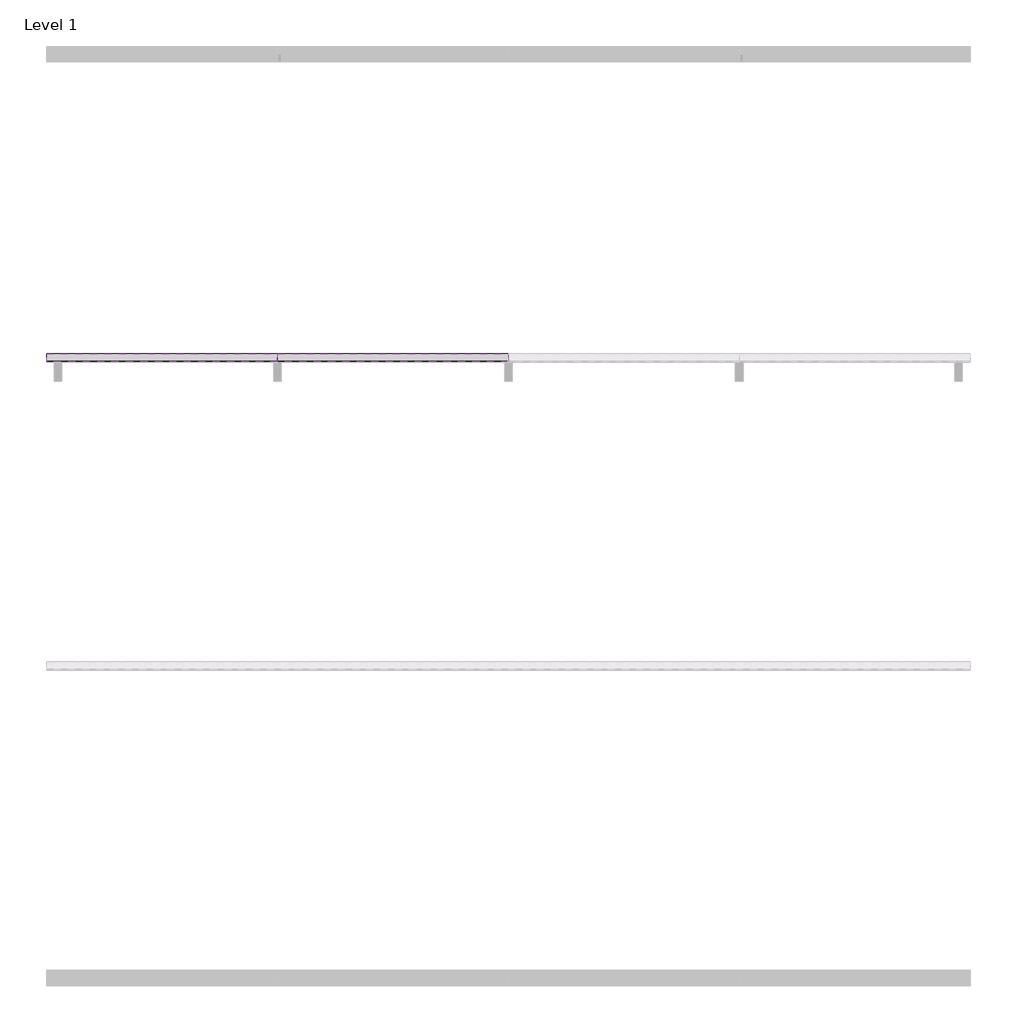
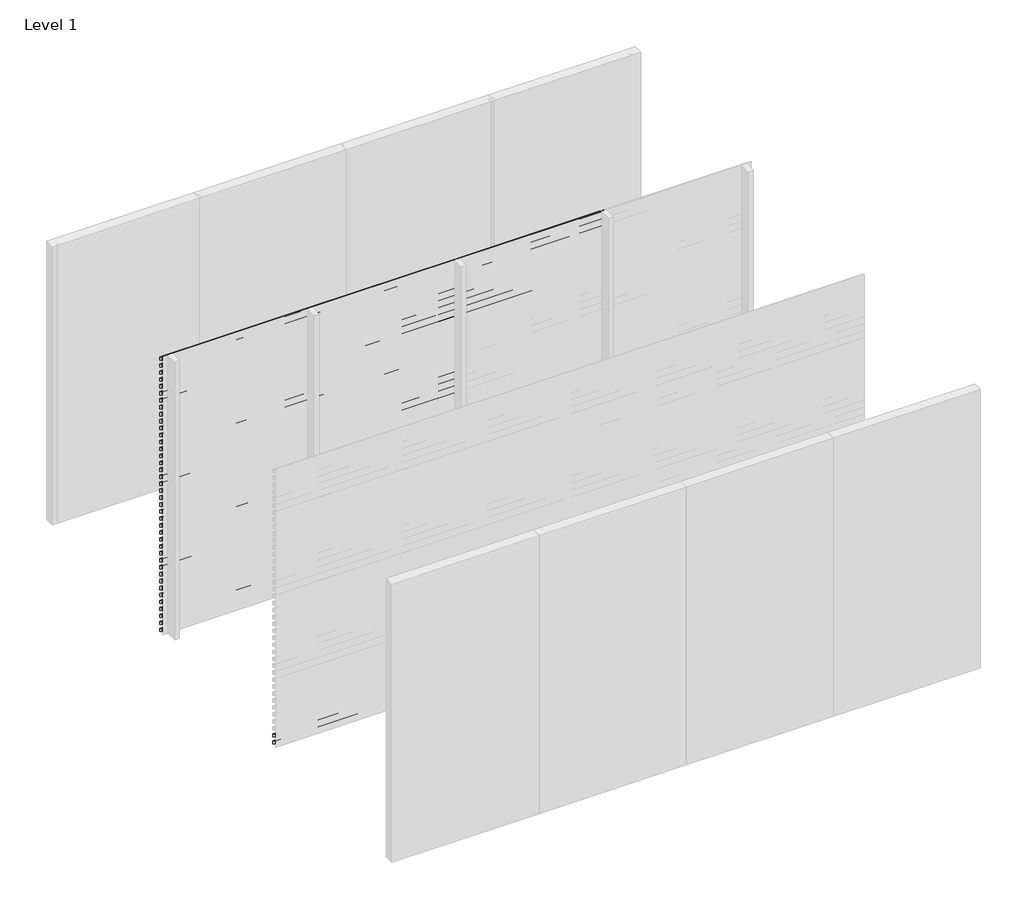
# One storey, part 2 of 9: 93 proxies.
"""IFC4 building model written with IfcOpenShell, lengths in millimetres."""

from ifc_helpers import new_model, si_unit, frame, origin, place, context, project, spatial, polyline, outline, extrude, element, save

model = new_model("IFC4")

# Units and contexts
model_context = context("Model", 3, world=origin())
ifc_project = project(units=[si_unit("LENGTHUNIT", "METRE", prefix="MILLI")], contexts=[model_context])

# Site, building, storey
site = spatial("IfcSite", under=ifc_project)
building = spatial("IfcBuilding", under=site)
storey = spatial("IfcBuildingStorey", under=building, Name="Level 1", Elevation=0.0)

# Proxies
placement = place(None, origin())
element("IfcBuildingElementProxy", 1, Name="Wall Sweeps", at=placement, inside=storey, context=model_context, shape_type="SweptSolid", body=[
    extrude(outline(polyline([(-17995.0, 3000.0), (-17995.0, 2991.2901632), (-17946.0, 2963.0), (-17946.0, 2928.0), (-17997.0, 2957.4448637), (-17997.0, 3000.0), (-17995.0, 3000.0)])), frame((3000.0, 0.0, 0.0), z_axis=(1.0, 0.0, 0.0), x_axis=(0.0, 1.0, 0.0)), (0.0, 0.0, 1.0), 1499.9999998),
])
element("IfcBuildingElementProxy", 2, Name="Wall Sweeps", at=placement, inside=storey, context=model_context, shape_type="SweptSolid", body=[
    extrude(outline(polyline([(-17995.0, 2925.0), (-17995.0, 2916.2901632), (-17946.0, 2888.0), (-17946.0, 2853.0), (-17997.0, 2882.4448637), (-17997.0, 2925.0), (-17995.0, 2925.0)])), frame((3000.0, 0.0, 0.0), z_axis=(1.0, 0.0, 0.0), x_axis=(0.0, 1.0, 0.0)), (0.0, 0.0, 1.0), 1499.9999998),
])
element("IfcBuildingElementProxy", 3, Name="Wall Sweeps", at=placement, inside=storey, context=model_context, shape_type="SweptSolid", body=[
    extrude(outline(polyline([(-17995.0, 2850.0), (-17995.0, 2841.2901632), (-17946.0, 2813.0), (-17946.0, 2778.0), (-17997.0, 2807.4448637), (-17997.0, 2850.0), (-17995.0, 2850.0)])), frame((3000.0, 0.0, 0.0), z_axis=(1.0, 0.0, 0.0), x_axis=(0.0, 1.0, 0.0)), (0.0, 0.0, 1.0), 1499.9999998),
])
element("IfcBuildingElementProxy", 4, Name="Wall Sweeps", at=placement, inside=storey, context=model_context, shape_type="SweptSolid", body=[
    extrude(outline(polyline([(-17995.0, 2775.0), (-17995.0, 2766.2901632), (-17946.0, 2738.0), (-17946.0, 2703.0), (-17997.0, 2732.4448637), (-17997.0, 2775.0), (-17995.0, 2775.0)])), frame((3000.0, 0.0, 0.0), z_axis=(1.0, 0.0, 0.0), x_axis=(0.0, 1.0, 0.0)), (0.0, 0.0, 1.0), 1499.9999998),
])
element("IfcBuildingElementProxy", 5, Name="Wall Sweeps", at=placement, inside=storey, context=model_context, shape_type="SweptSolid", body=[
    extrude(outline(polyline([(-17995.0, 2700.0), (-17995.0, 2691.2901632), (-17946.0, 2663.0), (-17946.0, 2628.0), (-17997.0, 2657.4448637), (-17997.0, 2700.0), (-17995.0, 2700.0)])), frame((3000.0, 0.0, 0.0), z_axis=(1.0, 0.0, 0.0), x_axis=(0.0, 1.0, 0.0)), (0.0, 0.0, 1.0), 1499.9999998),
])
element("IfcBuildingElementProxy", 6, Name="Wall Sweeps", at=placement, inside=storey, context=model_context, shape_type="SweptSolid", body=[
    extrude(outline(polyline([(-17995.0, 2625.0), (-17995.0, 2616.2901632), (-17946.0, 2588.0), (-17946.0, 2553.0), (-17997.0, 2582.4448637), (-17997.0, 2625.0), (-17995.0, 2625.0)])), frame((3000.0, 0.0, 0.0), z_axis=(1.0, 0.0, 0.0), x_axis=(0.0, 1.0, 0.0)), (0.0, 0.0, 1.0), 1499.9999998),
])
element("IfcBuildingElementProxy", 7, Name="Wall Sweeps", at=placement, inside=storey, context=model_context, shape_type="SweptSolid", body=[
    extrude(outline(polyline([(-17995.0, 2550.0), (-17995.0, 2541.2901632), (-17946.0, 2513.0), (-17946.0, 2478.0), (-17997.0, 2507.4448637), (-17997.0, 2550.0), (-17995.0, 2550.0)])), frame((3000.0, 0.0, 0.0), z_axis=(1.0, 0.0, 0.0), x_axis=(0.0, 1.0, 0.0)), (0.0, 0.0, 1.0), 1499.9999998),
])
element("IfcBuildingElementProxy", 8, Name="Wall Sweeps", at=placement, inside=storey, context=model_context, shape_type="SweptSolid", body=[
    extrude(outline(polyline([(-17995.0, 2475.0), (-17995.0, 2466.2901632), (-17946.0, 2438.0), (-17946.0, 2403.0), (-17997.0, 2432.4448637), (-17997.0, 2475.0), (-17995.0, 2475.0)])), frame((3000.0, 0.0, 0.0), z_axis=(1.0, 0.0, 0.0), x_axis=(0.0, 1.0, 0.0)), (0.0, 0.0, 1.0), 1499.9999998),
])
element("IfcBuildingElementProxy", 9, Name="Wall Sweeps", at=placement, inside=storey, context=model_context, shape_type="SweptSolid", body=[
    extrude(outline(polyline([(-17995.0, 2400.0), (-17995.0, 2391.2901632), (-17946.0, 2363.0), (-17946.0, 2328.0), (-17997.0, 2357.4448637), (-17997.0, 2400.0), (-17995.0, 2400.0)])), frame((3000.0, 0.0, 0.0), z_axis=(1.0, 0.0, 0.0), x_axis=(0.0, 1.0, 0.0)), (0.0, 0.0, 1.0), 1499.9999998),
])
element("IfcBuildingElementProxy", 10, Name="Wall Sweeps", at=placement, inside=storey, context=model_context, shape_type="SweptSolid", body=[
    extrude(outline(polyline([(-17995.0, 2325.0), (-17995.0, 2316.2901632), (-17946.0, 2288.0), (-17946.0, 2253.0), (-17997.0, 2282.4448637), (-17997.0, 2325.0), (-17995.0, 2325.0)])), frame((3000.0, 0.0, 0.0), z_axis=(1.0, 0.0, 0.0), x_axis=(0.0, 1.0, 0.0)), (0.0, 0.0, 1.0), 1499.9999998),
])
element("IfcBuildingElementProxy", 11, Name="Wall Sweeps", at=placement, inside=storey, context=model_context, shape_type="SweptSolid", body=[
    extrude(outline(polyline([(-17995.0, 2250.0), (-17995.0, 2241.2901632), (-17946.0, 2213.0), (-17946.0, 2178.0), (-17997.0, 2207.4448637), (-17997.0, 2250.0), (-17995.0, 2250.0)])), frame((3000.0, 0.0, 0.0), z_axis=(1.0, 0.0, 0.0), x_axis=(0.0, 1.0, 0.0)), (0.0, 0.0, 1.0), 1499.9999998),
])
element("IfcBuildingElementProxy", 12, Name="Wall Sweeps", at=placement, inside=storey, context=model_context, shape_type="SweptSolid", body=[
    extrude(outline(polyline([(-17995.0, 3000.0), (-17995.0, 2991.2901632), (-17946.0, 2963.0), (-17946.0, 2928.0), (-17997.0, 2957.4448637), (-17997.0, 3000.0), (-17995.0, 3000.0)])), frame((1500.0000002, 0.0, 0.0), z_axis=(1.0, 0.0, 0.0), x_axis=(0.0, 1.0, 0.0)), (0.0, 0.0, 1.0), 1499.9999998),
])
element("IfcBuildingElementProxy", 13, Name="Wall Sweeps", at=placement, inside=storey, context=model_context, shape_type="SweptSolid", body=[
    extrude(outline(polyline([(-17995.0, 2925.0), (-17995.0, 2916.2901632), (-17946.0, 2888.0), (-17946.0, 2853.0), (-17997.0, 2882.4448637), (-17997.0, 2925.0), (-17995.0, 2925.0)])), frame((1500.0000002, 0.0, 0.0), z_axis=(1.0, 0.0, 0.0), x_axis=(0.0, 1.0, 0.0)), (0.0, 0.0, 1.0), 1499.9999998),
])
element("IfcBuildingElementProxy", 14, Name="Wall Sweeps", at=placement, inside=storey, context=model_context, shape_type="SweptSolid", body=[
    extrude(outline(polyline([(-17995.0, 2850.0), (-17995.0, 2841.2901632), (-17946.0, 2813.0), (-17946.0, 2778.0), (-17997.0, 2807.4448637), (-17997.0, 2850.0), (-17995.0, 2850.0)])), frame((1500.0000002, 0.0, 0.0), z_axis=(1.0, 0.0, 0.0), x_axis=(0.0, 1.0, 0.0)), (0.0, 0.0, 1.0), 1499.9999998),
])
element("IfcBuildingElementProxy", 15, Name="Wall Sweeps", at=placement, inside=storey, context=model_context, shape_type="SweptSolid", body=[
    extrude(outline(polyline([(-17995.0, 2775.0), (-17995.0, 2766.2901632), (-17946.0, 2738.0), (-17946.0, 2703.0), (-17997.0, 2732.4448637), (-17997.0, 2775.0), (-17995.0, 2775.0)])), frame((1500.0000002, 0.0, 0.0), z_axis=(1.0, 0.0, 0.0), x_axis=(0.0, 1.0, 0.0)), (0.0, 0.0, 1.0), 1499.9999998),
])
element("IfcBuildingElementProxy", 16, Name="Wall Sweeps", at=placement, inside=storey, context=model_context, shape_type="SweptSolid", body=[
    extrude(outline(polyline([(-17995.0, 2700.0), (-17995.0, 2691.2901632), (-17946.0, 2663.0), (-17946.0, 2628.0), (-17997.0, 2657.4448637), (-17997.0, 2700.0), (-17995.0, 2700.0)])), frame((1500.0000002, 0.0, 0.0), z_axis=(1.0, 0.0, 0.0), x_axis=(0.0, 1.0, 0.0)), (0.0, 0.0, 1.0), 1499.9999998),
])
element("IfcBuildingElementProxy", 17, Name="Wall Sweeps", at=placement, inside=storey, context=model_context, shape_type="SweptSolid", body=[
    extrude(outline(polyline([(-17995.0, 2625.0), (-17995.0, 2616.2901632), (-17946.0, 2588.0), (-17946.0, 2553.0), (-17997.0, 2582.4448637), (-17997.0, 2625.0), (-17995.0, 2625.0)])), frame((1500.0000002, 0.0, 0.0), z_axis=(1.0, 0.0, 0.0), x_axis=(0.0, 1.0, 0.0)), (0.0, 0.0, 1.0), 1499.9999998),
])
element("IfcBuildingElementProxy", 18, Name="Wall Sweeps", at=placement, inside=storey, context=model_context, shape_type="SweptSolid", body=[
    extrude(outline(polyline([(-17995.0, 2550.0), (-17995.0, 2541.2901632), (-17946.0, 2513.0), (-17946.0, 2478.0), (-17997.0, 2507.4448637), (-17997.0, 2550.0), (-17995.0, 2550.0)])), frame((1500.0000002, 0.0, 0.0), z_axis=(1.0, 0.0, 0.0), x_axis=(0.0, 1.0, 0.0)), (0.0, 0.0, 1.0), 1499.9999998),
])
element("IfcBuildingElementProxy", 19, Name="Wall Sweeps", at=placement, inside=storey, context=model_context, shape_type="SweptSolid", body=[
    extrude(outline(polyline([(-17995.0, 2475.0), (-17995.0, 2466.2901632), (-17946.0, 2438.0), (-17946.0, 2403.0), (-17997.0, 2432.4448637), (-17997.0, 2475.0), (-17995.0, 2475.0)])), frame((1500.0000002, 0.0, 0.0), z_axis=(1.0, 0.0, 0.0), x_axis=(0.0, 1.0, 0.0)), (0.0, 0.0, 1.0), 1499.9999998),
])
element("IfcBuildingElementProxy", 20, Name="Wall Sweeps", at=placement, inside=storey, context=model_context, shape_type="SweptSolid", body=[
    extrude(outline(polyline([(-17995.0, 2400.0), (-17995.0, 2391.2901632), (-17946.0, 2363.0), (-17946.0, 2328.0), (-17997.0, 2357.4448637), (-17997.0, 2400.0), (-17995.0, 2400.0)])), frame((1500.0000002, 0.0, 0.0), z_axis=(1.0, 0.0, 0.0), x_axis=(0.0, 1.0, 0.0)), (0.0, 0.0, 1.0), 1499.9999998),
])
element("IfcBuildingElementProxy", 21, Name="Wall Sweeps", at=placement, inside=storey, context=model_context, shape_type="SweptSolid", body=[
    extrude(outline(polyline([(-17995.0, 2325.0), (-17995.0, 2316.2901632), (-17946.0, 2288.0), (-17946.0, 2253.0), (-17997.0, 2282.4448637), (-17997.0, 2325.0), (-17995.0, 2325.0)])), frame((1500.0000002, 0.0, 0.0), z_axis=(1.0, 0.0, 0.0), x_axis=(0.0, 1.0, 0.0)), (0.0, 0.0, 1.0), 1499.9999998),
])
element("IfcBuildingElementProxy", 22, Name="Wall Sweeps", at=placement, inside=storey, context=model_context, shape_type="SweptSolid", body=[
    extrude(outline(polyline([(-17995.0, 2250.0), (-17995.0, 2241.2901632), (-17946.0, 2213.0), (-17946.0, 2178.0), (-17997.0, 2207.4448637), (-17997.0, 2250.0), (-17995.0, 2250.0)])), frame((1500.0000002, 0.0, 0.0), z_axis=(1.0, 0.0, 0.0), x_axis=(0.0, 1.0, 0.0)), (0.0, 0.0, 1.0), 1499.9999998),
])
element("IfcBuildingElementProxy", 23, Name="Wall Sweeps", at=placement, inside=storey, context=model_context, shape_type="SweptSolid", body=[
    extrude(outline(polyline([(-17995.0, 2175.0), (-17995.0, 2166.2901632), (-17946.0, 2138.0), (-17946.0, 2103.0), (-17997.0, 2132.4448637), (-17997.0, 2175.0), (-17995.0, 2175.0)])), frame((1500.0000002, 0.0, 0.0), z_axis=(1.0, 0.0, 0.0), x_axis=(0.0, 1.0, 0.0)), (0.0, 0.0, 1.0), 1499.9999998),
])
element("IfcBuildingElementProxy", 24, Name="Wall Sweeps", at=placement, inside=storey, context=model_context, shape_type="SweptSolid", body=[
    extrude(outline(polyline([(-17995.0, 2100.0), (-17995.0, 2091.2901632), (-17946.0, 2063.0), (-17946.0, 2028.0), (-17997.0, 2057.4448637), (-17997.0, 2100.0), (-17995.0, 2100.0)])), frame((1500.0000002, 0.0, 0.0), z_axis=(1.0, 0.0, 0.0), x_axis=(0.0, 1.0, 0.0)), (0.0, 0.0, 1.0), 1499.9999998),
])
element("IfcBuildingElementProxy", 25, Name="Wall Sweeps", at=placement, inside=storey, context=model_context, shape_type="SweptSolid", body=[
    extrude(outline(polyline([(-17995.0, 2025.0), (-17995.0, 2016.2901632), (-17946.0, 1988.0), (-17946.0, 1953.0), (-17997.0, 1982.4448637), (-17997.0, 2025.0), (-17995.0, 2025.0)])), frame((1500.0000002, 0.0, 0.0), z_axis=(1.0, 0.0, 0.0), x_axis=(0.0, 1.0, 0.0)), (0.0, 0.0, 1.0), 1499.9999998),
])
element("IfcBuildingElementProxy", 26, Name="Wall Sweeps", at=placement, inside=storey, context=model_context, shape_type="SweptSolid", body=[
    extrude(outline(polyline([(-17995.0, 1950.0), (-17995.0, 1941.2901632), (-17946.0, 1913.0), (-17946.0, 1878.0), (-17997.0, 1907.4448637), (-17997.0, 1950.0), (-17995.0, 1950.0)])), frame((1500.0000002, 0.0, 0.0), z_axis=(1.0, 0.0, 0.0), x_axis=(0.0, 1.0, 0.0)), (0.0, 0.0, 1.0), 1499.9999998),
])
element("IfcBuildingElementProxy", 27, Name="Wall Sweeps", at=placement, inside=storey, context=model_context, shape_type="SweptSolid", body=[
    extrude(outline(polyline([(-17995.0, 1875.0), (-17995.0, 1866.2901632), (-17946.0, 1838.0), (-17946.0, 1803.0), (-17997.0, 1832.4448637), (-17997.0, 1875.0), (-17995.0, 1875.0)])), frame((1500.0000002, 0.0, 0.0), z_axis=(1.0, 0.0, 0.0), x_axis=(0.0, 1.0, 0.0)), (0.0, 0.0, 1.0), 1499.9999998),
])
element("IfcBuildingElementProxy", 28, Name="Wall Sweeps", at=placement, inside=storey, context=model_context, shape_type="SweptSolid", body=[
    extrude(outline(polyline([(-17995.0, 1800.0), (-17995.0, 1791.2901632), (-17946.0, 1763.0), (-17946.0, 1728.0), (-17997.0, 1757.4448637), (-17997.0, 1800.0), (-17995.0, 1800.0)])), frame((1500.0000002, 0.0, 0.0), z_axis=(1.0, 0.0, 0.0), x_axis=(0.0, 1.0, 0.0)), (0.0, 0.0, 1.0), 1499.9999998),
])
element("IfcBuildingElementProxy", 29, Name="Wall Sweeps", at=placement, inside=storey, context=model_context, shape_type="SweptSolid", body=[
    extrude(outline(polyline([(-17995.0, 1725.0), (-17995.0, 1716.2901632), (-17946.0, 1688.0), (-17946.0, 1653.0), (-17997.0, 1682.4448637), (-17997.0, 1725.0), (-17995.0, 1725.0)])), frame((1500.0000002, 0.0, 0.0), z_axis=(1.0, 0.0, 0.0), x_axis=(0.0, 1.0, 0.0)), (0.0, 0.0, 1.0), 1499.9999998),
])
element("IfcBuildingElementProxy", 30, Name="Wall Sweeps", at=placement, inside=storey, context=model_context, shape_type="SweptSolid", body=[
    extrude(outline(polyline([(-17995.0, 1650.0), (-17995.0, 1641.2901632), (-17946.0, 1613.0), (-17946.0, 1578.0), (-17997.0, 1607.4448637), (-17997.0, 1650.0), (-17995.0, 1650.0)])), frame((1500.0000002, 0.0, 0.0), z_axis=(1.0, 0.0, 0.0), x_axis=(0.0, 1.0, 0.0)), (0.0, 0.0, 1.0), 1499.9999998),
])
element("IfcBuildingElementProxy", 31, Name="Wall Sweeps", at=placement, inside=storey, context=model_context, shape_type="SweptSolid", body=[
    extrude(outline(polyline([(-17995.0, 1575.0), (-17995.0, 1566.2901632), (-17946.0, 1538.0), (-17946.0, 1503.0), (-17997.0, 1532.4448637), (-17997.0, 1575.0), (-17995.0, 1575.0)])), frame((1500.0000002, 0.0, 0.0), z_axis=(1.0, 0.0, 0.0), x_axis=(0.0, 1.0, 0.0)), (0.0, 0.0, 1.0), 1499.9999998),
])
element("IfcBuildingElementProxy", 32, Name="Wall Sweeps", at=placement, inside=storey, context=model_context, shape_type="SweptSolid", body=[
    extrude(outline(polyline([(-17995.0, 1500.0), (-17995.0, 1491.2901632), (-17946.0, 1463.0), (-17946.0, 1428.0), (-17997.0, 1457.4448637), (-17997.0, 1500.0), (-17995.0, 1500.0)])), frame((1500.0000002, 0.0, 0.0), z_axis=(1.0, 0.0, 0.0), x_axis=(0.0, 1.0, 0.0)), (0.0, 0.0, 1.0), 1499.9999998),
])
element("IfcBuildingElementProxy", 33, Name="Wall Sweeps", at=placement, inside=storey, context=model_context, shape_type="SweptSolid", body=[
    extrude(outline(polyline([(-17995.0, 1425.0), (-17995.0, 1416.2901632), (-17946.0, 1388.0), (-17946.0, 1353.0), (-17997.0, 1382.4448637), (-17997.0, 1425.0), (-17995.0, 1425.0)])), frame((1500.0000002, 0.0, 0.0), z_axis=(1.0, 0.0, 0.0), x_axis=(0.0, 1.0, 0.0)), (0.0, 0.0, 1.0), 1499.9999998),
])
element("IfcBuildingElementProxy", 34, Name="Wall Sweeps", at=placement, inside=storey, context=model_context, shape_type="SweptSolid", body=[
    extrude(outline(polyline([(-17995.0, 1350.0), (-17995.0, 1341.2901632), (-17946.0, 1313.0), (-17946.0, 1278.0), (-17997.0, 1307.4448637), (-17997.0, 1350.0), (-17995.0, 1350.0)])), frame((1500.0000002, 0.0, 0.0), z_axis=(1.0, 0.0, 0.0), x_axis=(0.0, 1.0, 0.0)), (0.0, 0.0, 1.0), 1499.9999998),
])
element("IfcBuildingElementProxy", 35, Name="Wall Sweeps", at=placement, inside=storey, context=model_context, shape_type="SweptSolid", body=[
    extrude(outline(polyline([(-17995.0, 1275.0), (-17995.0, 1266.2901632), (-17946.0, 1238.0), (-17946.0, 1203.0), (-17997.0, 1232.4448637), (-17997.0, 1275.0), (-17995.0, 1275.0)])), frame((1500.0000002, 0.0, 0.0), z_axis=(1.0, 0.0, 0.0), x_axis=(0.0, 1.0, 0.0)), (0.0, 0.0, 1.0), 1499.9999998),
])
element("IfcBuildingElementProxy", 36, Name="Wall Sweeps", at=placement, inside=storey, context=model_context, shape_type="SweptSolid", body=[
    extrude(outline(polyline([(-17995.0, 1200.0), (-17995.0, 1191.2901632), (-17946.0, 1163.0), (-17946.0, 1128.0), (-17997.0, 1157.4448637), (-17997.0, 1200.0), (-17995.0, 1200.0)])), frame((1500.0000002, 0.0, 0.0), z_axis=(1.0, 0.0, 0.0), x_axis=(0.0, 1.0, 0.0)), (0.0, 0.0, 1.0), 1499.9999998),
])
element("IfcBuildingElementProxy", 37, Name="Wall Sweeps", at=placement, inside=storey, context=model_context, shape_type="SweptSolid", body=[
    extrude(outline(polyline([(-17995.0, 1125.0), (-17995.0, 1116.2901632), (-17946.0, 1088.0), (-17946.0, 1053.0), (-17997.0, 1082.4448637), (-17997.0, 1125.0), (-17995.0, 1125.0)])), frame((1500.0000002, 0.0, 0.0), z_axis=(1.0, 0.0, 0.0), x_axis=(0.0, 1.0, 0.0)), (0.0, 0.0, 1.0), 1499.9999998),
])
element("IfcBuildingElementProxy", 38, Name="Wall Sweeps", at=placement, inside=storey, context=model_context, shape_type="SweptSolid", body=[
    extrude(outline(polyline([(-17995.0, 1050.0), (-17995.0, 1041.2901632), (-17946.0, 1013.0), (-17946.0, 978.0), (-17997.0, 1007.4448637), (-17997.0, 1050.0), (-17995.0, 1050.0)])), frame((1500.0000002, 0.0, 0.0), z_axis=(1.0, 0.0, 0.0), x_axis=(0.0, 1.0, 0.0)), (0.0, 0.0, 1.0), 1499.9999998),
])
element("IfcBuildingElementProxy", 39, Name="Wall Sweeps", at=placement, inside=storey, context=model_context, shape_type="SweptSolid", body=[
    extrude(outline(polyline([(-17995.0, 975.0), (-17995.0, 966.2901632), (-17946.0, 938.0), (-17946.0, 903.0), (-17997.0, 932.4448637), (-17997.0, 975.0), (-17995.0, 975.0)])), frame((1500.0000002, 0.0, 0.0), z_axis=(1.0, 0.0, 0.0), x_axis=(0.0, 1.0, 0.0)), (0.0, 0.0, 1.0), 1499.9999998),
])
element("IfcBuildingElementProxy", 40, Name="Wall Sweeps", at=placement, inside=storey, context=model_context, shape_type="SweptSolid", body=[
    extrude(outline(polyline([(-17995.0, 900.0), (-17995.0, 891.2901632), (-17946.0, 863.0), (-17946.0, 828.0), (-17997.0, 857.4448637), (-17997.0, 900.0), (-17995.0, 900.0)])), frame((1500.0000002, 0.0, 0.0), z_axis=(1.0, 0.0, 0.0), x_axis=(0.0, 1.0, 0.0)), (0.0, 0.0, 1.0), 1499.9999998),
])
element("IfcBuildingElementProxy", 41, Name="Wall Sweeps", at=placement, inside=storey, context=model_context, shape_type="SweptSolid", body=[
    extrude(outline(polyline([(-17995.0, 825.0), (-17995.0, 816.2901632), (-17946.0, 788.0), (-17946.0, 753.0), (-17997.0, 782.4448637), (-17997.0, 825.0), (-17995.0, 825.0)])), frame((1500.0000002, 0.0, 0.0), z_axis=(1.0, 0.0, 0.0), x_axis=(0.0, 1.0, 0.0)), (0.0, 0.0, 1.0), 1499.9999998),
])
element("IfcBuildingElementProxy", 42, Name="Wall Sweeps", at=placement, inside=storey, context=model_context, shape_type="SweptSolid", body=[
    extrude(outline(polyline([(-17995.0, 750.0), (-17995.0, 741.2901632), (-17946.0, 713.0), (-17946.0, 678.0), (-17997.0, 707.4448637), (-17997.0, 750.0), (-17995.0, 750.0)])), frame((1500.0000002, 0.0, 0.0), z_axis=(1.0, 0.0, 0.0), x_axis=(0.0, 1.0, 0.0)), (0.0, 0.0, 1.0), 1499.9999998),
])
element("IfcBuildingElementProxy", 43, Name="Wall Sweeps", at=placement, inside=storey, context=model_context, shape_type="SweptSolid", body=[
    extrude(outline(polyline([(-17995.0, 675.0), (-17995.0, 666.2901632), (-17946.0, 638.0), (-17946.0, 603.0), (-17997.0, 632.4448637), (-17997.0, 675.0), (-17995.0, 675.0)])), frame((1500.0000002, 0.0, 0.0), z_axis=(1.0, 0.0, 0.0), x_axis=(0.0, 1.0, 0.0)), (0.0, 0.0, 1.0), 1499.9999998),
])
element("IfcBuildingElementProxy", 44, Name="Wall Sweeps", at=placement, inside=storey, context=model_context, shape_type="SweptSolid", body=[
    extrude(outline(polyline([(-17995.0, 600.0), (-17995.0, 591.2901632), (-17946.0, 563.0), (-17946.0, 528.0), (-17997.0, 557.4448637), (-17997.0, 600.0), (-17995.0, 600.0)])), frame((1500.0000002, 0.0, 0.0), z_axis=(1.0, 0.0, 0.0), x_axis=(0.0, 1.0, 0.0)), (0.0, 0.0, 1.0), 1499.9999998),
])
element("IfcBuildingElementProxy", 45, Name="Wall Sweeps", at=placement, inside=storey, context=model_context, shape_type="SweptSolid", body=[
    extrude(outline(polyline([(-17995.0, 525.0), (-17995.0, 516.2901632), (-17946.0, 488.0), (-17946.0, 453.0), (-17997.0, 482.4448637), (-17997.0, 525.0), (-17995.0, 525.0)])), frame((1500.0000002, 0.0, 0.0), z_axis=(1.0, 0.0, 0.0), x_axis=(0.0, 1.0, 0.0)), (0.0, 0.0, 1.0), 1499.9999998),
])
element("IfcBuildingElementProxy", 46, Name="Wall Sweeps", at=placement, inside=storey, context=model_context, shape_type="SweptSolid", body=[
    extrude(outline(polyline([(-17995.0, 450.0), (-17995.0, 441.2901632), (-17946.0, 413.0), (-17946.0, 378.0), (-17997.0, 407.4448637), (-17997.0, 450.0), (-17995.0, 450.0)])), frame((1500.0000002, 0.0, 0.0), z_axis=(1.0, 0.0, 0.0), x_axis=(0.0, 1.0, 0.0)), (0.0, 0.0, 1.0), 1499.9999998),
])
element("IfcBuildingElementProxy", 47, Name="Wall Sweeps", at=placement, inside=storey, context=model_context, shape_type="SweptSolid", body=[
    extrude(outline(polyline([(-17995.0, 375.0), (-17995.0, 366.2901632), (-17946.0, 338.0), (-17946.0, 303.0), (-17997.0, 332.4448637), (-17997.0, 375.0), (-17995.0, 375.0)])), frame((1500.0000002, 0.0, 0.0), z_axis=(1.0, 0.0, 0.0), x_axis=(0.0, 1.0, 0.0)), (0.0, 0.0, 1.0), 1499.9999998),
])
element("IfcBuildingElementProxy", 48, Name="Wall Sweeps", at=placement, inside=storey, context=model_context, shape_type="SweptSolid", body=[
    extrude(outline(polyline([(-17995.0, 300.0), (-17995.0, 291.2901632), (-17946.0, 263.0), (-17946.0, 228.0), (-17997.0, 257.4448637), (-17997.0, 300.0), (-17995.0, 300.0)])), frame((1500.0000002, 0.0, 0.0), z_axis=(1.0, 0.0, 0.0), x_axis=(0.0, 1.0, 0.0)), (0.0, 0.0, 1.0), 1499.9999998),
])
element("IfcBuildingElementProxy", 49, Name="Wall Sweeps", at=placement, inside=storey, context=model_context, shape_type="SweptSolid", body=[
    extrude(outline(polyline([(-17995.0, 225.0), (-17995.0, 216.2901632), (-17946.0, 188.0), (-17946.0, 153.0), (-17997.0, 182.4448637), (-17997.0, 225.0), (-17995.0, 225.0)])), frame((1500.0000002, 0.0, 0.0), z_axis=(1.0, 0.0, 0.0), x_axis=(0.0, 1.0, 0.0)), (0.0, 0.0, 1.0), 1499.9999998),
])
element("IfcBuildingElementProxy", 50, Name="Wall Sweeps", at=placement, inside=storey, context=model_context, shape_type="SweptSolid", body=[
    extrude(outline(polyline([(-17995.0, 150.0), (-17995.0, 141.2901632), (-17946.0, 113.0), (-17946.0, 78.0), (-17997.0, 107.4448637), (-17997.0, 150.0), (-17995.0, 150.0)])), frame((1500.0000002, 0.0, 0.0), z_axis=(1.0, 0.0, 0.0), x_axis=(0.0, 1.0, 0.0)), (0.0, 0.0, 1.0), 1499.9999998),
])
element("IfcBuildingElementProxy", 51, Name="Wall Sweeps", at=placement, inside=storey, context=model_context, shape_type="SweptSolid", body=[
    extrude(outline(polyline([(-17995.0, 75.0), (-17995.0, 66.2901632), (-17946.0, 38.0), (-17946.0, 3.0), (-17997.0, 32.4448637), (-17997.0, 75.0), (-17995.0, 75.0)])), frame((1500.0000002, 0.0, 0.0), z_axis=(1.0, 0.0, 0.0), x_axis=(0.0, 1.0, 0.0)), (0.0, 0.0, 1.0), 1499.9999998),
])
element("IfcBuildingElementProxy", 52, Name="Wall Sweeps", at=placement, inside=storey, context=model_context, shape_type="SweptSolid", body=[
    extrude(outline(polyline([(-17995.0, 3000.0), (-17995.0, 2991.2901632), (-17946.0, 2963.0), (-17946.0, 2928.0), (-17997.0, 2957.4448637), (-17997.0, 3000.0), (-17995.0, 3000.0)])), frame((0.0, 0.0, 0.0), z_axis=(1.0, 0.0, 0.0), x_axis=(0.0, 1.0, 0.0)), (0.0, 0.0, 1.0), 1500.0000002),
])
element("IfcBuildingElementProxy", 53, Name="Wall Sweeps", at=placement, inside=storey, context=model_context, shape_type="SweptSolid", body=[
    extrude(outline(polyline([(-17995.0, 2925.0), (-17995.0, 2916.2901632), (-17946.0, 2888.0), (-17946.0, 2853.0), (-17997.0, 2882.4448637), (-17997.0, 2925.0), (-17995.0, 2925.0)])), frame((0.0, 0.0, 0.0), z_axis=(1.0, 0.0, 0.0), x_axis=(0.0, 1.0, 0.0)), (0.0, 0.0, 1.0), 1500.0000002),
])
element("IfcBuildingElementProxy", 54, Name="Wall Sweeps", at=placement, inside=storey, context=model_context, shape_type="SweptSolid", body=[
    extrude(outline(polyline([(-17995.0, 2850.0), (-17995.0, 2841.2901632), (-17946.0, 2813.0), (-17946.0, 2778.0), (-17997.0, 2807.4448637), (-17997.0, 2850.0), (-17995.0, 2850.0)])), frame((0.0, 0.0, 0.0), z_axis=(1.0, 0.0, 0.0), x_axis=(0.0, 1.0, 0.0)), (0.0, 0.0, 1.0), 1500.0000002),
])
element("IfcBuildingElementProxy", 55, Name="Wall Sweeps", at=placement, inside=storey, context=model_context, shape_type="SweptSolid", body=[
    extrude(outline(polyline([(-17995.0, 2775.0), (-17995.0, 2766.2901632), (-17946.0, 2738.0), (-17946.0, 2703.0), (-17997.0, 2732.4448637), (-17997.0, 2775.0), (-17995.0, 2775.0)])), frame((0.0, 0.0, 0.0), z_axis=(1.0, 0.0, 0.0), x_axis=(0.0, 1.0, 0.0)), (0.0, 0.0, 1.0), 1500.0000002),
])
element("IfcBuildingElementProxy", 56, Name="Wall Sweeps", at=placement, inside=storey, context=model_context, shape_type="SweptSolid", body=[
    extrude(outline(polyline([(-17995.0, 2700.0), (-17995.0, 2691.2901632), (-17946.0, 2663.0), (-17946.0, 2628.0), (-17997.0, 2657.4448637), (-17997.0, 2700.0), (-17995.0, 2700.0)])), frame((0.0, 0.0, 0.0), z_axis=(1.0, 0.0, 0.0), x_axis=(0.0, 1.0, 0.0)), (0.0, 0.0, 1.0), 1500.0000002),
])
element("IfcBuildingElementProxy", 57, Name="Wall Sweeps", at=placement, inside=storey, context=model_context, shape_type="SweptSolid", body=[
    extrude(outline(polyline([(-17995.0, 2625.0), (-17995.0, 2616.2901632), (-17946.0, 2588.0), (-17946.0, 2553.0), (-17997.0, 2582.4448637), (-17997.0, 2625.0), (-17995.0, 2625.0)])), frame((0.0, 0.0, 0.0), z_axis=(1.0, 0.0, 0.0), x_axis=(0.0, 1.0, 0.0)), (0.0, 0.0, 1.0), 1500.0000002),
])
element("IfcBuildingElementProxy", 58, Name="Wall Sweeps", at=placement, inside=storey, context=model_context, shape_type="SweptSolid", body=[
    extrude(outline(polyline([(-17995.0, 2550.0), (-17995.0, 2541.2901632), (-17946.0, 2513.0), (-17946.0, 2478.0), (-17997.0, 2507.4448637), (-17997.0, 2550.0), (-17995.0, 2550.0)])), frame((0.0, 0.0, 0.0), z_axis=(1.0, 0.0, 0.0), x_axis=(0.0, 1.0, 0.0)), (0.0, 0.0, 1.0), 1500.0000002),
])
element("IfcBuildingElementProxy", 59, Name="Wall Sweeps", at=placement, inside=storey, context=model_context, shape_type="SweptSolid", body=[
    extrude(outline(polyline([(-17995.0, 2475.0), (-17995.0, 2466.2901632), (-17946.0, 2438.0), (-17946.0, 2403.0), (-17997.0, 2432.4448637), (-17997.0, 2475.0), (-17995.0, 2475.0)])), frame((0.0, 0.0, 0.0), z_axis=(1.0, 0.0, 0.0), x_axis=(0.0, 1.0, 0.0)), (0.0, 0.0, 1.0), 1500.0000002),
])
element("IfcBuildingElementProxy", 60, Name="Wall Sweeps", at=placement, inside=storey, context=model_context, shape_type="SweptSolid", body=[
    extrude(outline(polyline([(-17995.0, 2400.0), (-17995.0, 2391.2901632), (-17946.0, 2363.0), (-17946.0, 2328.0), (-17997.0, 2357.4448637), (-17997.0, 2400.0), (-17995.0, 2400.0)])), frame((0.0, 0.0, 0.0), z_axis=(1.0, 0.0, 0.0), x_axis=(0.0, 1.0, 0.0)), (0.0, 0.0, 1.0), 1500.0000002),
])
element("IfcBuildingElementProxy", 61, Name="Wall Sweeps", at=placement, inside=storey, context=model_context, shape_type="SweptSolid", body=[
    extrude(outline(polyline([(-17995.0, 2325.0), (-17995.0, 2316.2901632), (-17946.0, 2288.0), (-17946.0, 2253.0), (-17997.0, 2282.4448637), (-17997.0, 2325.0), (-17995.0, 2325.0)])), frame((0.0, 0.0, 0.0), z_axis=(1.0, 0.0, 0.0), x_axis=(0.0, 1.0, 0.0)), (0.0, 0.0, 1.0), 1500.0000002),
])
element("IfcBuildingElementProxy", 62, Name="Wall Sweeps", at=placement, inside=storey, context=model_context, shape_type="SweptSolid", body=[
    extrude(outline(polyline([(-17995.0, 2250.0), (-17995.0, 2241.2901632), (-17946.0, 2213.0), (-17946.0, 2178.0), (-17997.0, 2207.4448637), (-17997.0, 2250.0), (-17995.0, 2250.0)])), frame((0.0, 0.0, 0.0), z_axis=(1.0, 0.0, 0.0), x_axis=(0.0, 1.0, 0.0)), (0.0, 0.0, 1.0), 1500.0000002),
])
element("IfcBuildingElementProxy", 63, Name="Wall Sweeps", at=placement, inside=storey, context=model_context, shape_type="SweptSolid", body=[
    extrude(outline(polyline([(-17995.0, 2175.0), (-17995.0, 2166.2901632), (-17946.0, 2138.0), (-17946.0, 2103.0), (-17997.0, 2132.4448637), (-17997.0, 2175.0), (-17995.0, 2175.0)])), frame((0.0, 0.0, 0.0), z_axis=(1.0, 0.0, 0.0), x_axis=(0.0, 1.0, 0.0)), (0.0, 0.0, 1.0), 1500.0000002),
])
element("IfcBuildingElementProxy", 64, Name="Wall Sweeps", at=placement, inside=storey, context=model_context, shape_type="SweptSolid", body=[
    extrude(outline(polyline([(-17995.0, 2100.0), (-17995.0, 2091.2901632), (-17946.0, 2063.0), (-17946.0, 2028.0), (-17997.0, 2057.4448637), (-17997.0, 2100.0), (-17995.0, 2100.0)])), frame((0.0, 0.0, 0.0), z_axis=(1.0, 0.0, 0.0), x_axis=(0.0, 1.0, 0.0)), (0.0, 0.0, 1.0), 1500.0000002),
])
element("IfcBuildingElementProxy", 65, Name="Wall Sweeps", at=placement, inside=storey, context=model_context, shape_type="SweptSolid", body=[
    extrude(outline(polyline([(-17995.0, 2025.0), (-17995.0, 2016.2901632), (-17946.0, 1988.0), (-17946.0, 1953.0), (-17997.0, 1982.4448637), (-17997.0, 2025.0), (-17995.0, 2025.0)])), frame((0.0, 0.0, 0.0), z_axis=(1.0, 0.0, 0.0), x_axis=(0.0, 1.0, 0.0)), (0.0, 0.0, 1.0), 1500.0000002),
])
element("IfcBuildingElementProxy", 66, Name="Wall Sweeps", at=placement, inside=storey, context=model_context, shape_type="SweptSolid", body=[
    extrude(outline(polyline([(-17995.0, 1950.0), (-17995.0, 1941.2901632), (-17946.0, 1913.0), (-17946.0, 1878.0), (-17997.0, 1907.4448637), (-17997.0, 1950.0), (-17995.0, 1950.0)])), frame((0.0, 0.0, 0.0), z_axis=(1.0, 0.0, 0.0), x_axis=(0.0, 1.0, 0.0)), (0.0, 0.0, 1.0), 1500.0000002),
])
element("IfcBuildingElementProxy", 67, Name="Wall Sweeps", at=placement, inside=storey, context=model_context, shape_type="SweptSolid", body=[
    extrude(outline(polyline([(-17995.0, 1875.0), (-17995.0, 1866.2901632), (-17946.0, 1838.0), (-17946.0, 1803.0), (-17997.0, 1832.4448637), (-17997.0, 1875.0), (-17995.0, 1875.0)])), frame((0.0, 0.0, 0.0), z_axis=(1.0, 0.0, 0.0), x_axis=(0.0, 1.0, 0.0)), (0.0, 0.0, 1.0), 1500.0000002),
])
element("IfcBuildingElementProxy", 68, Name="Wall Sweeps", at=placement, inside=storey, context=model_context, shape_type="SweptSolid", body=[
    extrude(outline(polyline([(-17995.0, 1800.0), (-17995.0, 1791.2901632), (-17946.0, 1763.0), (-17946.0, 1728.0), (-17997.0, 1757.4448637), (-17997.0, 1800.0), (-17995.0, 1800.0)])), frame((0.0, 0.0, 0.0), z_axis=(1.0, 0.0, 0.0), x_axis=(0.0, 1.0, 0.0)), (0.0, 0.0, 1.0), 1500.0000002),
])
element("IfcBuildingElementProxy", 69, Name="Wall Sweeps", at=placement, inside=storey, context=model_context, shape_type="SweptSolid", body=[
    extrude(outline(polyline([(-17995.0, 1725.0), (-17995.0, 1716.2901632), (-17946.0, 1688.0), (-17946.0, 1653.0), (-17997.0, 1682.4448637), (-17997.0, 1725.0), (-17995.0, 1725.0)])), frame((0.0, 0.0, 0.0), z_axis=(1.0, 0.0, 0.0), x_axis=(0.0, 1.0, 0.0)), (0.0, 0.0, 1.0), 1500.0000002),
])
element("IfcBuildingElementProxy", 70, Name="Wall Sweeps", at=placement, inside=storey, context=model_context, shape_type="SweptSolid", body=[
    extrude(outline(polyline([(-17995.0, 1650.0), (-17995.0, 1641.2901632), (-17946.0, 1613.0), (-17946.0, 1578.0), (-17997.0, 1607.4448637), (-17997.0, 1650.0), (-17995.0, 1650.0)])), frame((0.0, 0.0, 0.0), z_axis=(1.0, 0.0, 0.0), x_axis=(0.0, 1.0, 0.0)), (0.0, 0.0, 1.0), 1500.0000002),
])
element("IfcBuildingElementProxy", 71, Name="Wall Sweeps", at=placement, inside=storey, context=model_context, shape_type="SweptSolid", body=[
    extrude(outline(polyline([(-17995.0, 1575.0), (-17995.0, 1566.2901632), (-17946.0, 1538.0), (-17946.0, 1503.0), (-17997.0, 1532.4448637), (-17997.0, 1575.0), (-17995.0, 1575.0)])), frame((0.0, 0.0, 0.0), z_axis=(1.0, 0.0, 0.0), x_axis=(0.0, 1.0, 0.0)), (0.0, 0.0, 1.0), 1500.0000002),
])
element("IfcBuildingElementProxy", 72, Name="Wall Sweeps", at=placement, inside=storey, context=model_context, shape_type="SweptSolid", body=[
    extrude(outline(polyline([(-17995.0, 1500.0), (-17995.0, 1491.2901632), (-17946.0, 1463.0), (-17946.0, 1428.0), (-17997.0, 1457.4448637), (-17997.0, 1500.0), (-17995.0, 1500.0)])), frame((0.0, 0.0, 0.0), z_axis=(1.0, 0.0, 0.0), x_axis=(0.0, 1.0, 0.0)), (0.0, 0.0, 1.0), 1500.0000002),
])
element("IfcBuildingElementProxy", 73, Name="Wall Sweeps", at=placement, inside=storey, context=model_context, shape_type="SweptSolid", body=[
    extrude(outline(polyline([(-17995.0, 1425.0), (-17995.0, 1416.2901632), (-17946.0, 1388.0), (-17946.0, 1353.0), (-17997.0, 1382.4448637), (-17997.0, 1425.0), (-17995.0, 1425.0)])), frame((0.0, 0.0, 0.0), z_axis=(1.0, 0.0, 0.0), x_axis=(0.0, 1.0, 0.0)), (0.0, 0.0, 1.0), 1500.0000002),
])
element("IfcBuildingElementProxy", 74, Name="Wall Sweeps", at=placement, inside=storey, context=model_context, shape_type="SweptSolid", body=[
    extrude(outline(polyline([(-17995.0, 1350.0), (-17995.0, 1341.2901632), (-17946.0, 1313.0), (-17946.0, 1278.0), (-17997.0, 1307.4448637), (-17997.0, 1350.0), (-17995.0, 1350.0)])), frame((0.0, 0.0, 0.0), z_axis=(1.0, 0.0, 0.0), x_axis=(0.0, 1.0, 0.0)), (0.0, 0.0, 1.0), 1500.0000002),
])
element("IfcBuildingElementProxy", 75, Name="Wall Sweeps", at=placement, inside=storey, context=model_context, shape_type="SweptSolid", body=[
    extrude(outline(polyline([(-17995.0, 1275.0), (-17995.0, 1266.2901632), (-17946.0, 1238.0), (-17946.0, 1203.0), (-17997.0, 1232.4448637), (-17997.0, 1275.0), (-17995.0, 1275.0)])), frame((0.0, 0.0, 0.0), z_axis=(1.0, 0.0, 0.0), x_axis=(0.0, 1.0, 0.0)), (0.0, 0.0, 1.0), 1500.0000002),
])
element("IfcBuildingElementProxy", 76, Name="Wall Sweeps", at=placement, inside=storey, context=model_context, shape_type="SweptSolid", body=[
    extrude(outline(polyline([(-17995.0, 1200.0), (-17995.0, 1191.2901632), (-17946.0, 1163.0), (-17946.0, 1128.0), (-17997.0, 1157.4448637), (-17997.0, 1200.0), (-17995.0, 1200.0)])), frame((0.0, 0.0, 0.0), z_axis=(1.0, 0.0, 0.0), x_axis=(0.0, 1.0, 0.0)), (0.0, 0.0, 1.0), 1500.0000002),
])
element("IfcBuildingElementProxy", 77, Name="Wall Sweeps", at=placement, inside=storey, context=model_context, shape_type="SweptSolid", body=[
    extrude(outline(polyline([(-17995.0, 1125.0), (-17995.0, 1116.2901632), (-17946.0, 1088.0), (-17946.0, 1053.0), (-17997.0, 1082.4448637), (-17997.0, 1125.0), (-17995.0, 1125.0)])), frame((0.0, 0.0, 0.0), z_axis=(1.0, 0.0, 0.0), x_axis=(0.0, 1.0, 0.0)), (0.0, 0.0, 1.0), 1500.0000002),
])
element("IfcBuildingElementProxy", 78, Name="Wall Sweeps", at=placement, inside=storey, context=model_context, shape_type="SweptSolid", body=[
    extrude(outline(polyline([(-17995.0, 1050.0), (-17995.0, 1041.2901632), (-17946.0, 1013.0), (-17946.0, 978.0), (-17997.0, 1007.4448637), (-17997.0, 1050.0), (-17995.0, 1050.0)])), frame((0.0, 0.0, 0.0), z_axis=(1.0, 0.0, 0.0), x_axis=(0.0, 1.0, 0.0)), (0.0, 0.0, 1.0), 1500.0000002),
])
element("IfcBuildingElementProxy", 79, Name="Wall Sweeps", at=placement, inside=storey, context=model_context, shape_type="SweptSolid", body=[
    extrude(outline(polyline([(-17995.0, 975.0), (-17995.0, 966.2901632), (-17946.0, 938.0), (-17946.0, 903.0), (-17997.0, 932.4448637), (-17997.0, 975.0), (-17995.0, 975.0)])), frame((0.0, 0.0, 0.0), z_axis=(1.0, 0.0, 0.0), x_axis=(0.0, 1.0, 0.0)), (0.0, 0.0, 1.0), 1500.0000002),
])
element("IfcBuildingElementProxy", 80, Name="Wall Sweeps", at=placement, inside=storey, context=model_context, shape_type="SweptSolid", body=[
    extrude(outline(polyline([(-17995.0, 900.0), (-17995.0, 891.2901632), (-17946.0, 863.0), (-17946.0, 828.0), (-17997.0, 857.4448637), (-17997.0, 900.0), (-17995.0, 900.0)])), frame((0.0, 0.0, 0.0), z_axis=(1.0, 0.0, 0.0), x_axis=(0.0, 1.0, 0.0)), (0.0, 0.0, 1.0), 1500.0000002),
])
element("IfcBuildingElementProxy", 81, Name="Wall Sweeps", at=placement, inside=storey, context=model_context, shape_type="SweptSolid", body=[
    extrude(outline(polyline([(-17995.0, 825.0), (-17995.0, 816.2901632), (-17946.0, 788.0), (-17946.0, 753.0), (-17997.0, 782.4448637), (-17997.0, 825.0), (-17995.0, 825.0)])), frame((0.0, 0.0, 0.0), z_axis=(1.0, 0.0, 0.0), x_axis=(0.0, 1.0, 0.0)), (0.0, 0.0, 1.0), 1500.0000002),
])
element("IfcBuildingElementProxy", 82, Name="Wall Sweeps", at=placement, inside=storey, context=model_context, shape_type="SweptSolid", body=[
    extrude(outline(polyline([(-17995.0, 750.0), (-17995.0, 741.2901632), (-17946.0, 713.0), (-17946.0, 678.0), (-17997.0, 707.4448637), (-17997.0, 750.0), (-17995.0, 750.0)])), frame((0.0, 0.0, 0.0), z_axis=(1.0, 0.0, 0.0), x_axis=(0.0, 1.0, 0.0)), (0.0, 0.0, 1.0), 1500.0000002),
])
element("IfcBuildingElementProxy", 83, Name="Wall Sweeps", at=placement, inside=storey, context=model_context, shape_type="SweptSolid", body=[
    extrude(outline(polyline([(-17995.0, 675.0), (-17995.0, 666.2901632), (-17946.0, 638.0), (-17946.0, 603.0), (-17997.0, 632.4448637), (-17997.0, 675.0), (-17995.0, 675.0)])), frame((0.0, 0.0, 0.0), z_axis=(1.0, 0.0, 0.0), x_axis=(0.0, 1.0, 0.0)), (0.0, 0.0, 1.0), 1500.0000002),
])
element("IfcBuildingElementProxy", 84, Name="Wall Sweeps", at=placement, inside=storey, context=model_context, shape_type="SweptSolid", body=[
    extrude(outline(polyline([(-17995.0, 600.0), (-17995.0, 591.2901632), (-17946.0, 563.0), (-17946.0, 528.0), (-17997.0, 557.4448637), (-17997.0, 600.0), (-17995.0, 600.0)])), frame((0.0, 0.0, 0.0), z_axis=(1.0, 0.0, 0.0), x_axis=(0.0, 1.0, 0.0)), (0.0, 0.0, 1.0), 1500.0000002),
])
element("IfcBuildingElementProxy", 85, Name="Wall Sweeps", at=placement, inside=storey, context=model_context, shape_type="SweptSolid", body=[
    extrude(outline(polyline([(-17995.0, 525.0), (-17995.0, 516.2901632), (-17946.0, 488.0), (-17946.0, 453.0), (-17997.0, 482.4448637), (-17997.0, 525.0), (-17995.0, 525.0)])), frame((0.0, 0.0, 0.0), z_axis=(1.0, 0.0, 0.0), x_axis=(0.0, 1.0, 0.0)), (0.0, 0.0, 1.0), 1500.0000002),
])
element("IfcBuildingElementProxy", 86, Name="Wall Sweeps", at=placement, inside=storey, context=model_context, shape_type="SweptSolid", body=[
    extrude(outline(polyline([(-17995.0, 450.0), (-17995.0, 441.2901632), (-17946.0, 413.0), (-17946.0, 378.0), (-17997.0, 407.4448637), (-17997.0, 450.0), (-17995.0, 450.0)])), frame((0.0, 0.0, 0.0), z_axis=(1.0, 0.0, 0.0), x_axis=(0.0, 1.0, 0.0)), (0.0, 0.0, 1.0), 1500.0000002),
])
element("IfcBuildingElementProxy", 87, Name="Wall Sweeps", at=placement, inside=storey, context=model_context, shape_type="SweptSolid", body=[
    extrude(outline(polyline([(-17995.0, 375.0), (-17995.0, 366.2901632), (-17946.0, 338.0), (-17946.0, 303.0), (-17997.0, 332.4448637), (-17997.0, 375.0), (-17995.0, 375.0)])), frame((0.0, 0.0, 0.0), z_axis=(1.0, 0.0, 0.0), x_axis=(0.0, 1.0, 0.0)), (0.0, 0.0, 1.0), 1500.0000002),
])
element("IfcBuildingElementProxy", 88, Name="Wall Sweeps", at=placement, inside=storey, context=model_context, shape_type="SweptSolid", body=[
    extrude(outline(polyline([(-17995.0, 300.0), (-17995.0, 291.2901632), (-17946.0, 263.0), (-17946.0, 228.0), (-17997.0, 257.4448637), (-17997.0, 300.0), (-17995.0, 300.0)])), frame((0.0, 0.0, 0.0), z_axis=(1.0, 0.0, 0.0), x_axis=(0.0, 1.0, 0.0)), (0.0, 0.0, 1.0), 1500.0000002),
])
element("IfcBuildingElementProxy", 89, Name="Wall Sweeps", at=placement, inside=storey, context=model_context, shape_type="SweptSolid", body=[
    extrude(outline(polyline([(-17995.0, 225.0), (-17995.0, 216.2901632), (-17946.0, 188.0), (-17946.0, 153.0), (-17997.0, 182.4448637), (-17997.0, 225.0), (-17995.0, 225.0)])), frame((0.0, 0.0, 0.0), z_axis=(1.0, 0.0, 0.0), x_axis=(0.0, 1.0, 0.0)), (0.0, 0.0, 1.0), 1500.0000002),
])
element("IfcBuildingElementProxy", 90, Name="Wall Sweeps", at=placement, inside=storey, context=model_context, shape_type="SweptSolid", body=[
    extrude(outline(polyline([(-17995.0, 150.0), (-17995.0, 141.2901632), (-17946.0, 113.0), (-17946.0, 78.0), (-17997.0, 107.4448637), (-17997.0, 150.0), (-17995.0, 150.0)])), frame((0.0, 0.0, 0.0), z_axis=(1.0, 0.0, 0.0), x_axis=(0.0, 1.0, 0.0)), (0.0, 0.0, 1.0), 1500.0000002),
])
element("IfcBuildingElementProxy", 91, Name="Wall Sweeps", at=placement, inside=storey, context=model_context, shape_type="SweptSolid", body=[
    extrude(outline(polyline([(-17995.0, 75.0), (-17995.0, 66.2901632), (-17946.0, 38.0), (-17946.0, 3.0), (-17997.0, 32.4448637), (-17997.0, 75.0), (-17995.0, 75.0)])), frame((0.0, 0.0, 0.0), z_axis=(1.0, 0.0, 0.0), x_axis=(0.0, 1.0, 0.0)), (0.0, 0.0, 1.0), 1500.0000002),
])
element("IfcBuildingElementProxy", 92, Name="Wall Sweeps", at=placement, inside=storey, context=model_context, shape_type="SweptSolid", body=[
    extrude(outline(polyline([(-19995.0, 150.0), (-19995.0, 141.2901632), (-19946.0, 113.0), (-19946.0, 78.0), (-19997.0, 107.4448637), (-19997.0, 150.0), (-19995.0, 150.0)])), frame((0.0, 0.0, 0.0), z_axis=(1.0, 0.0, 0.0), x_axis=(0.0, 1.0, 0.0)), (0.0, 0.0, 1.0), 6000.0),
])
element("IfcBuildingElementProxy", 93, Name="Wall Sweeps", at=placement, inside=storey, context=model_context, shape_type="SweptSolid", body=[
    extrude(outline(polyline([(-19995.0, 75.0), (-19995.0, 66.2901632), (-19946.0, 38.0), (-19946.0, 3.0), (-19997.0, 32.4448637), (-19997.0, 75.0), (-19995.0, 75.0)])), frame((0.0, 0.0, 0.0), z_axis=(1.0, 0.0, 0.0), x_axis=(0.0, 1.0, 0.0)), (0.0, 0.0, 1.0), 6000.0),
])

save(model, "model.ifc")
